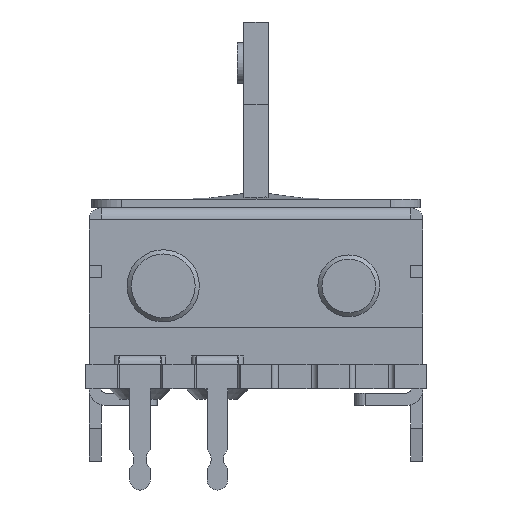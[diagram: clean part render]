
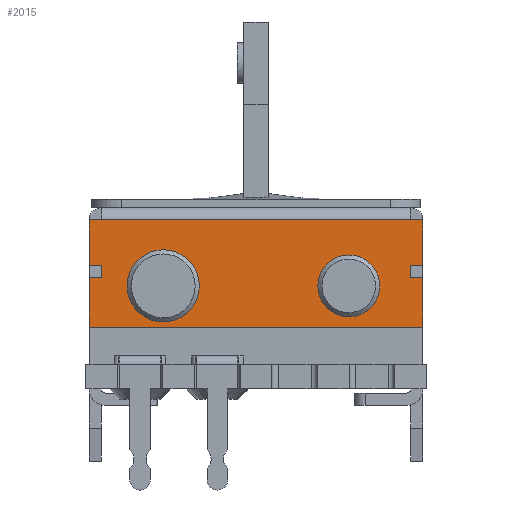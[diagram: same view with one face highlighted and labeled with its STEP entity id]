
A CAD part, left-side view. The second image highlights one B-rep face of the part: STEP entity #2015.
In plain terms, the highlighted planar face has unit normal (-1, 0, 0).
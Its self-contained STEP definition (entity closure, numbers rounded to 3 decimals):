
#1390 = VERTEX_POINT('',#1391);
#1391 = CARTESIAN_POINT('',(-63.6,7.5,-0.6));
#1400 = VERTEX_POINT('',#1401);
#1401 = CARTESIAN_POINT('',(-63.6,-7.5,-0.6));
#1408 = EDGE_CURVE('',#1390,#1400,#1409,.T.);
#1409 = LINE('',#1410,#1411);
#1410 = CARTESIAN_POINT('',(-63.6,7.5,-0.6));
#1411 = VECTOR('',#1412,1.);
#1412 = DIRECTION('',(0.,-1.,0.));
#2015 = ADVANCED_FACE('',(#2016,#2121,#2132),#2143,.T.);
#2016 = FACE_BOUND('',#2017,.T.);
#2017 = EDGE_LOOP('',(#2018,#2019,#2027,#2035,#2043,#2051,#2059,#2067,
    #2075,#2083,#2091,#2099,#2107,#2115));
#2018 = ORIENTED_EDGE('',*,*,#1408,.F.);
#2019 = ORIENTED_EDGE('',*,*,#2020,.T.);
#2020 = EDGE_CURVE('',#1390,#2021,#2023,.T.);
#2021 = VERTEX_POINT('',#2022);
#2022 = CARTESIAN_POINT('',(-63.6,8.1,-0.6));
#2023 = LINE('',#2024,#2025);
#2024 = CARTESIAN_POINT('',(-63.6,8.8,-0.6));
#2025 = VECTOR('',#2026,1.);
#2026 = DIRECTION('',(0.,1.,0.));
#2027 = ORIENTED_EDGE('',*,*,#2028,.F.);
#2028 = EDGE_CURVE('',#2029,#2021,#2031,.T.);
#2029 = VERTEX_POINT('',#2030);
#2030 = CARTESIAN_POINT('',(-63.6,8.1,-2.8));
#2031 = LINE('',#2032,#2033);
#2032 = CARTESIAN_POINT('',(-63.6,8.1,-5.8));
#2033 = VECTOR('',#2034,1.);
#2034 = DIRECTION('',(0.,0.,1.));
#2035 = ORIENTED_EDGE('',*,*,#2036,.F.);
#2036 = EDGE_CURVE('',#2037,#2029,#2039,.T.);
#2037 = VERTEX_POINT('',#2038);
#2038 = CARTESIAN_POINT('',(-63.6,7.5,-2.8));
#2039 = LINE('',#2040,#2041);
#2040 = CARTESIAN_POINT('',(-63.6,8.8,-2.8));
#2041 = VECTOR('',#2042,1.);
#2042 = DIRECTION('',(0.,1.,0.));
#2043 = ORIENTED_EDGE('',*,*,#2044,.F.);
#2044 = EDGE_CURVE('',#2045,#2037,#2047,.T.);
#2045 = VERTEX_POINT('',#2046);
#2046 = CARTESIAN_POINT('',(-63.6,7.5,-3.4));
#2047 = LINE('',#2048,#2049);
#2048 = CARTESIAN_POINT('',(-63.6,7.5,-4.6));
#2049 = VECTOR('',#2050,1.);
#2050 = DIRECTION('',(0.,0.,1.));
#2051 = ORIENTED_EDGE('',*,*,#2052,.T.);
#2052 = EDGE_CURVE('',#2045,#2053,#2055,.T.);
#2053 = VERTEX_POINT('',#2054);
#2054 = CARTESIAN_POINT('',(-63.6,8.1,-3.4));
#2055 = LINE('',#2056,#2057);
#2056 = CARTESIAN_POINT('',(-63.6,8.8,-3.4));
#2057 = VECTOR('',#2058,1.);
#2058 = DIRECTION('',(0.,1.,0.));
#2059 = ORIENTED_EDGE('',*,*,#2060,.F.);
#2060 = EDGE_CURVE('',#2061,#2053,#2063,.T.);
#2061 = VERTEX_POINT('',#2062);
#2062 = CARTESIAN_POINT('',(-63.6,8.1,-5.8));
#2063 = LINE('',#2064,#2065);
#2064 = CARTESIAN_POINT('',(-63.6,8.1,-5.8));
#2065 = VECTOR('',#2066,1.);
#2066 = DIRECTION('',(0.,0.,1.));
#2067 = ORIENTED_EDGE('',*,*,#2068,.T.);
#2068 = EDGE_CURVE('',#2061,#2069,#2071,.T.);
#2069 = VERTEX_POINT('',#2070);
#2070 = CARTESIAN_POINT('',(-63.6,-8.1,-5.8));
#2071 = LINE('',#2072,#2073);
#2072 = CARTESIAN_POINT('',(-63.6,8.1,-5.8));
#2073 = VECTOR('',#2074,1.);
#2074 = DIRECTION('',(0.,-1.,0.));
#2075 = ORIENTED_EDGE('',*,*,#2076,.T.);
#2076 = EDGE_CURVE('',#2069,#2077,#2079,.T.);
#2077 = VERTEX_POINT('',#2078);
#2078 = CARTESIAN_POINT('',(-63.6,-8.1,-3.4));
#2079 = LINE('',#2080,#2081);
#2080 = CARTESIAN_POINT('',(-63.6,-8.1,-5.8));
#2081 = VECTOR('',#2082,1.);
#2082 = DIRECTION('',(0.,0.,1.));
#2083 = ORIENTED_EDGE('',*,*,#2084,.T.);
#2084 = EDGE_CURVE('',#2077,#2085,#2087,.T.);
#2085 = VERTEX_POINT('',#2086);
#2086 = CARTESIAN_POINT('',(-63.6,-7.5,-3.4));
#2087 = LINE('',#2088,#2089);
#2088 = CARTESIAN_POINT('',(-63.6,0.3,-3.4));
#2089 = VECTOR('',#2090,1.);
#2090 = DIRECTION('',(0.,1.,0.));
#2091 = ORIENTED_EDGE('',*,*,#2092,.T.);
#2092 = EDGE_CURVE('',#2085,#2093,#2095,.T.);
#2093 = VERTEX_POINT('',#2094);
#2094 = CARTESIAN_POINT('',(-63.6,-7.5,-2.8));
#2095 = LINE('',#2096,#2097);
#2096 = CARTESIAN_POINT('',(-63.6,-7.5,-4.6));
#2097 = VECTOR('',#2098,1.);
#2098 = DIRECTION('',(0.,0.,1.));
#2099 = ORIENTED_EDGE('',*,*,#2100,.F.);
#2100 = EDGE_CURVE('',#2101,#2093,#2103,.T.);
#2101 = VERTEX_POINT('',#2102);
#2102 = CARTESIAN_POINT('',(-63.6,-8.1,-2.8));
#2103 = LINE('',#2104,#2105);
#2104 = CARTESIAN_POINT('',(-63.6,0.3,-2.8));
#2105 = VECTOR('',#2106,1.);
#2106 = DIRECTION('',(0.,1.,0.));
#2107 = ORIENTED_EDGE('',*,*,#2108,.T.);
#2108 = EDGE_CURVE('',#2101,#2109,#2111,.T.);
#2109 = VERTEX_POINT('',#2110);
#2110 = CARTESIAN_POINT('',(-63.6,-8.1,-0.6));
#2111 = LINE('',#2112,#2113);
#2112 = CARTESIAN_POINT('',(-63.6,-8.1,-5.8));
#2113 = VECTOR('',#2114,1.);
#2114 = DIRECTION('',(0.,0.,1.));
#2115 = ORIENTED_EDGE('',*,*,#2116,.T.);
#2116 = EDGE_CURVE('',#2109,#1400,#2117,.T.);
#2117 = LINE('',#2118,#2119);
#2118 = CARTESIAN_POINT('',(-63.6,0.3,-0.6));
#2119 = VECTOR('',#2120,1.);
#2120 = DIRECTION('',(0.,1.,0.));
#2121 = FACE_BOUND('',#2122,.T.);
#2122 = EDGE_LOOP('',(#2123));
#2123 = ORIENTED_EDGE('',*,*,#2124,.T.);
#2124 = EDGE_CURVE('',#2125,#2125,#2127,.T.);
#2125 = VERTEX_POINT('',#2126);
#2126 = CARTESIAN_POINT('',(-63.6,-4.5,-5.3));
#2127 = CIRCLE('',#2128,1.5);
#2128 = AXIS2_PLACEMENT_3D('',#2129,#2130,#2131);
#2129 = CARTESIAN_POINT('',(-63.6,-4.5,-3.8));
#2130 = DIRECTION('',(1.,-0.,0.));
#2131 = DIRECTION('',(0.,0.,-1.));
#2132 = FACE_BOUND('',#2133,.T.);
#2133 = EDGE_LOOP('',(#2134));
#2134 = ORIENTED_EDGE('',*,*,#2135,.T.);
#2135 = EDGE_CURVE('',#2136,#2136,#2138,.T.);
#2136 = VERTEX_POINT('',#2137);
#2137 = CARTESIAN_POINT('',(-63.6,4.5,-5.55));
#2138 = CIRCLE('',#2139,1.75);
#2139 = AXIS2_PLACEMENT_3D('',#2140,#2141,#2142);
#2140 = CARTESIAN_POINT('',(-63.6,4.5,-3.8));
#2141 = DIRECTION('',(1.,-0.,0.));
#2142 = DIRECTION('',(0.,0.,-1.));
#2143 = PLANE('',#2144);
#2144 = AXIS2_PLACEMENT_3D('',#2145,#2146,#2147);
#2145 = CARTESIAN_POINT('',(-63.6,8.1,-5.8));
#2146 = DIRECTION('',(-1.,0.,0.));
#2147 = DIRECTION('',(0.,0.,1.));
